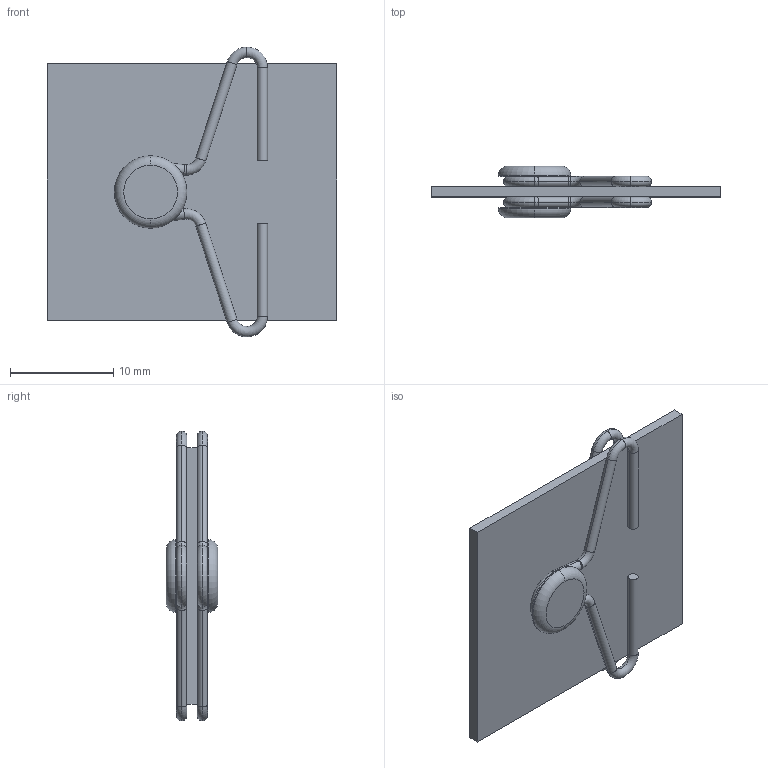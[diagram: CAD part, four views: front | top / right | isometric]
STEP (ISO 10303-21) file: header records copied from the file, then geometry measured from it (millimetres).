
FILE_DESCRIPTION (( 'STEP AP203' ), '1' );
FILE_NAME ('RLA-25x28.STEP', '2015-12-10T16:20:13', ( 'Balzi' ), ( '' ), 'SwSTEP 2.0', 'SolidWorks 2015', '' );
FILE_SCHEMA (( 'CONFIG_CONTROL_DESIGN' ));
Length unit declared in the file: millimetre
Products named in the file (1): RLA-25x28
Bounding box: 28 x 5 x 27.99 mm (x, y, z)
Volume: 853.6 mm3; surface area: 2071.8 mm2
Topology: 5 solids, 5 shells, 84 faces, 162 edges, 88 vertices
Faces by surface type: torus 40, cylinder 30, plane 14
Entity records: 2199 total; most frequent: DIRECTION 452, CARTESIAN_POINT 335, ORIENTED_EDGE 324, AXIS2_PLACEMENT_3D 205, EDGE_CURVE 162, CIRCLE 120, VERTEX_POINT 88, EDGE_LOOP 86
